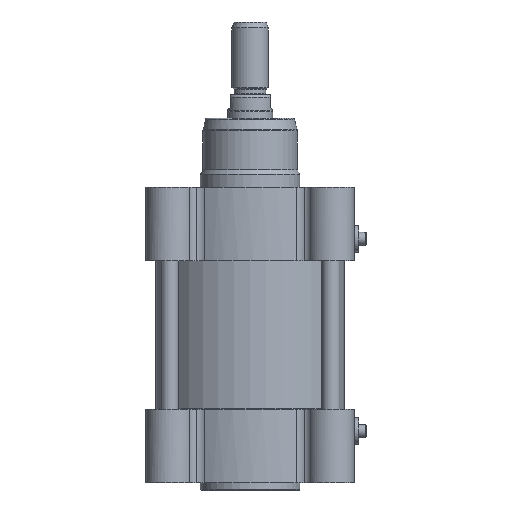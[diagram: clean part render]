
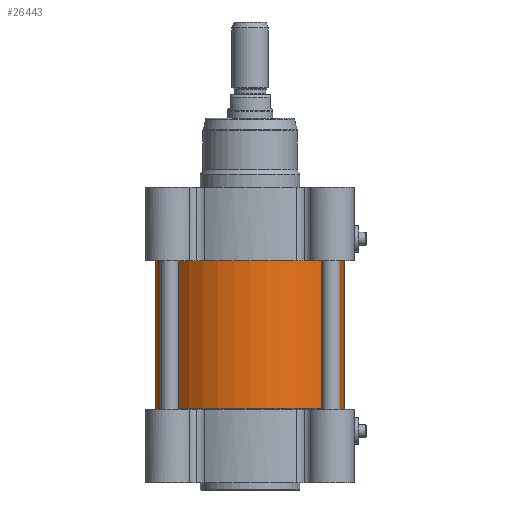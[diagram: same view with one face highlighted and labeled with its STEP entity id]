
A CAD part, front view. The second image highlights one B-rep face of the part: STEP entity #26443.
In plain terms, the highlighted cylindrical face has radius 52 mm (diameter 104 mm), a partial arc.
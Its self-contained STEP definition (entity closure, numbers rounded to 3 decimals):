
#139 = DIRECTION ( 'NONE',  ( -1., 0., 0. ) ) ;
#381 = ORIENTED_EDGE ( 'NONE', *, *, #23848, .F. ) ;
#420 = VERTEX_POINT ( 'NONE', #23238 ) ;
#810 = EDGE_LOOP ( 'NONE', ( #381, #22247, #25607, #15186 ) ) ;
#1141 = LINE ( 'NONE', #11207, #3725 ) ;
#2416 = DIRECTION ( 'NONE',  ( 0., 0., 1. ) ) ;
#3725 = VECTOR ( 'NONE', #18290, 1000. ) ;
#5889 = DIRECTION ( 'NONE',  ( 0., 0., 1. ) ) ;
#5962 = VERTEX_POINT ( 'NONE', #24065 ) ;
#6011 = CIRCLE ( 'NONE', #19159, 52. ) ;
#6294 = DIRECTION ( 'NONE',  ( 0., 0., -1. ) ) ;
#7709 = LINE ( 'NONE', #17098, #13746 ) ;
#9038 = EDGE_CURVE ( 'NONE', #420, #5962, #22813, .T. ) ;
#10936 = CARTESIAN_POINT ( 'NONE',  ( -52., 0., 0.2 ) ) ;
#11207 = CARTESIAN_POINT ( 'NONE',  ( -52., 0., 0. ) ) ;
#13140 = DIRECTION ( 'NONE',  ( -1., 0., 0. ) ) ;
#13746 = VECTOR ( 'NONE', #2416, 1000. ) ;
#14452 = AXIS2_PLACEMENT_3D ( 'NONE', #28170, #25851, #139 ) ;
#15186 = ORIENTED_EDGE ( 'NONE', *, *, #29750, .F. ) ;
#16819 = DIRECTION ( 'NONE',  ( -1., 0., 0. ) ) ;
#17098 = CARTESIAN_POINT ( 'NONE',  ( 52., 0., 0. ) ) ;
#18290 = DIRECTION ( 'NONE',  ( 0., 0., 1. ) ) ;
#19159 = AXIS2_PLACEMENT_3D ( 'NONE', #31515, #6294, #16819 ) ;
#21040 = CARTESIAN_POINT ( 'NONE',  ( 0., 0., 0. ) ) ;
#21692 = VERTEX_POINT ( 'NONE', #10936 ) ;
#22247 = ORIENTED_EDGE ( 'NONE', *, *, #26349, .T. ) ;
#22386 = VERTEX_POINT ( 'NONE', #24000 ) ;
#22813 = CIRCLE ( 'NONE', #14452, 52. ) ;
#23238 = CARTESIAN_POINT ( 'NONE',  ( -52., 0., 81.8 ) ) ;
#23729 = AXIS2_PLACEMENT_3D ( 'NONE', #21040, #5889, #13140 ) ;
#23848 = EDGE_CURVE ( 'NONE', #22386, #21692, #6011, .T. ) ;
#24000 = CARTESIAN_POINT ( 'NONE',  ( 52., 0., 0.2 ) ) ;
#24065 = CARTESIAN_POINT ( 'NONE',  ( 52., 0., 81.8 ) ) ;
#25483 = CYLINDRICAL_SURFACE ( 'NONE', #23729, 52. ) ;
#25607 = ORIENTED_EDGE ( 'NONE', *, *, #9038, .F. ) ;
#25851 = DIRECTION ( 'NONE',  ( 0., 0., 1. ) ) ;
#26349 = EDGE_CURVE ( 'NONE', #22386, #5962, #7709, .T. ) ;
#26443 = ADVANCED_FACE ( 'NONE', ( #28300 ), #25483, .T. ) ;
#28170 = CARTESIAN_POINT ( 'NONE',  ( 0., 0., 81.8 ) ) ;
#28300 = FACE_OUTER_BOUND ( 'NONE', #810, .T. ) ;
#29750 = EDGE_CURVE ( 'NONE', #21692, #420, #1141, .T. ) ;
#31515 = CARTESIAN_POINT ( 'NONE',  ( 0., 0., 0.2 ) ) ;
